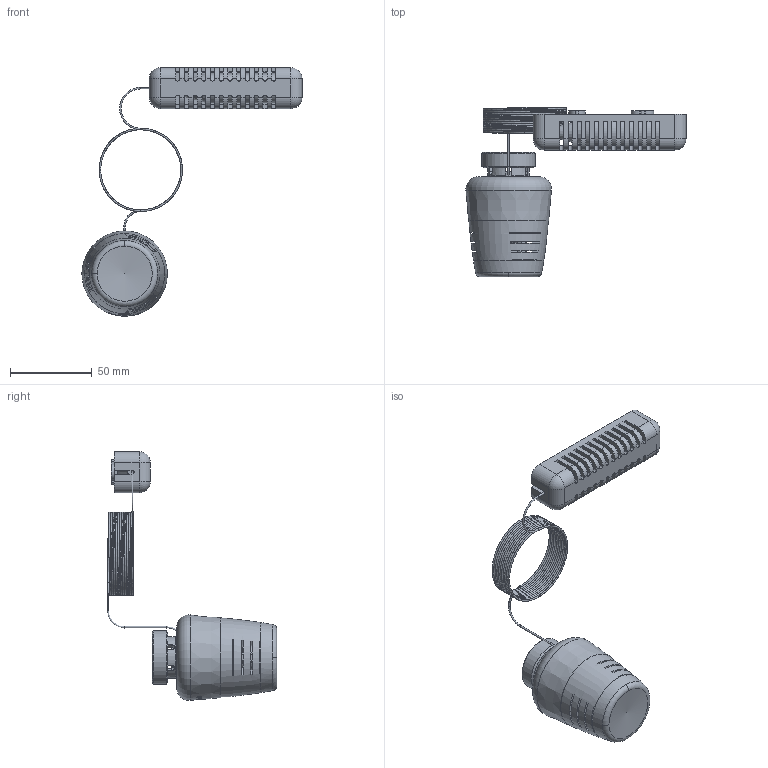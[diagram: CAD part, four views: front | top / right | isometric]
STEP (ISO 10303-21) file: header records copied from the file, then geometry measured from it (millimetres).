
FILE_DESCRIPTION(('STEP AP203'), '1');
FILE_NAME('VT.5010.0.0', '2024-07-03T07:02:02', ('User'), ('Vesta'), 'C3D Converter', 'C3D Toolkit', '');
FILE_SCHEMA(('CONFIG_CONTROL_DESIGN'));
Length unit declared in the file: millimetre
Products named in the file (1): 304555.002.000 СБ
Bounding box: 134.74 x 103.66 x 152.2 mm (x, y, z)
Volume: 97242.3 mm3; surface area: 87567.7 mm2
Topology: 1 solids, 1 shells, 1726 faces, 5209 edges, 3351 vertices
Faces by surface type: plane 1071, cylinder 421, torus 81, cone 71, bspline 65, sphere 16, revolution 1
Full cylindrical faces by diameter (mm): 1 x6, 3 x1, 3.8 x1, 4 x2, 5.8 x1, 6 x1, 7.3 x2, 7.6 x1, 9 x17, 11 x1, 12.3 x1, 12.5 x1, 12.9 x1, 15 x1, 15.5 x1, 15.7 x1, 18 x1, 18.5 x1, 19 x1, 23 x1, 24 x1, 25.2 x1, 26.1 x1, 28.2 x1, 28.376 x1, 29 x1, 30.7 x1, 32.7 x1, 32.9 x1, 36.6 x1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
Entity records: 74243 total; most frequent: CARTESIAN_POINT 28268, ORIENTED_EDGE 10048, DIRECTION 9150, EDGE_CURVE 5024, VERTEX_POINT 3342, AXIS2_PLACEMENT_3D 3187, LINE 2775, VECTOR 2775
